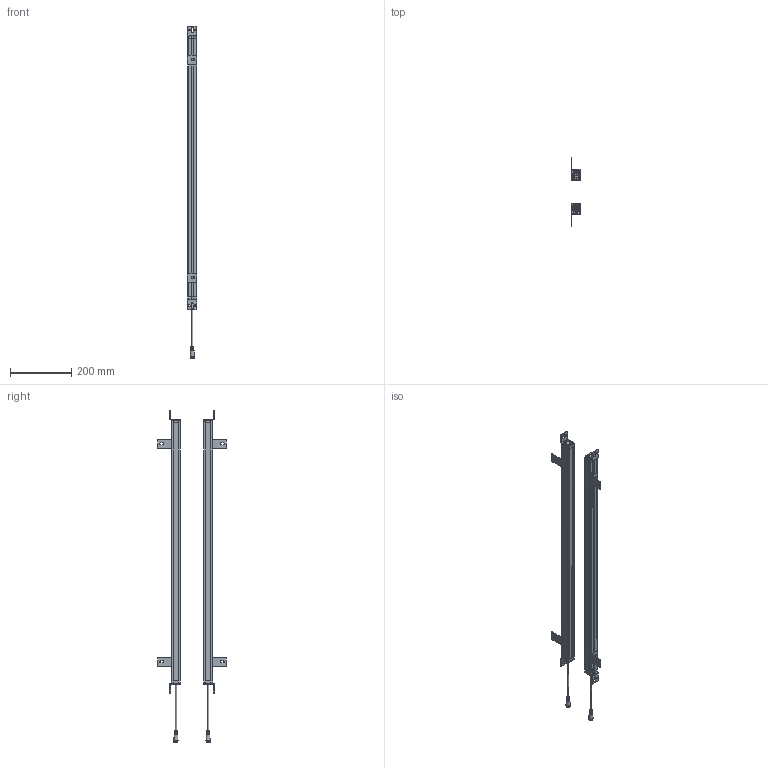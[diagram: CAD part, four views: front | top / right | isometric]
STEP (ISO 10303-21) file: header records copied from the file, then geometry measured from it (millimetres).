
FILE_DESCRIPTION(/* description */ (''),/* implementation_level */ '2;1');
FILE_NAME(/* name */ '4220（29x30）.stp',/* time_stamp */ '2023-04-28T14:38:31+08:00',/* author */ (''),/* organization */ (''),/* preprocessor_version */ 'ST-DEVELOPER v16.7',/* originating_system */ 'SIEMENS PLM Software NX 12.0',/* authorisation */ '');
FILE_SCHEMA (('AUTOMOTIVE_DESIGN { 1 0 10303 214 3 1 1 1 }'));
Products named in the file (1): 4220（29x30）_stp
Bounding box: 32.03 x 223.99 x 1081 mm (x, y, z)
Volume: 549328.9 mm3; surface area: 567728 mm2
Topology: 34 solids, 34 shells, 1610 faces, 4267 edges, 2771 vertices
Faces by surface type: plane 750, cylinder 648, bspline 88, sphere 36, cone 36, torus 32, extrusion 20
Full cylindrical faces by diameter (mm): 1.533 x6, 4.4 x4, 9 x2, 12.5 x2
Entity records: 56427 total; most frequent: CARTESIAN_POINT 16064, DIRECTION 8330, ORIENTED_EDGE 8324, EDGE_CURVE 4162, AXIS2_PLACEMENT_3D 2918, VERTEX_POINT 2696, VECTOR 2494, LINE 2474
